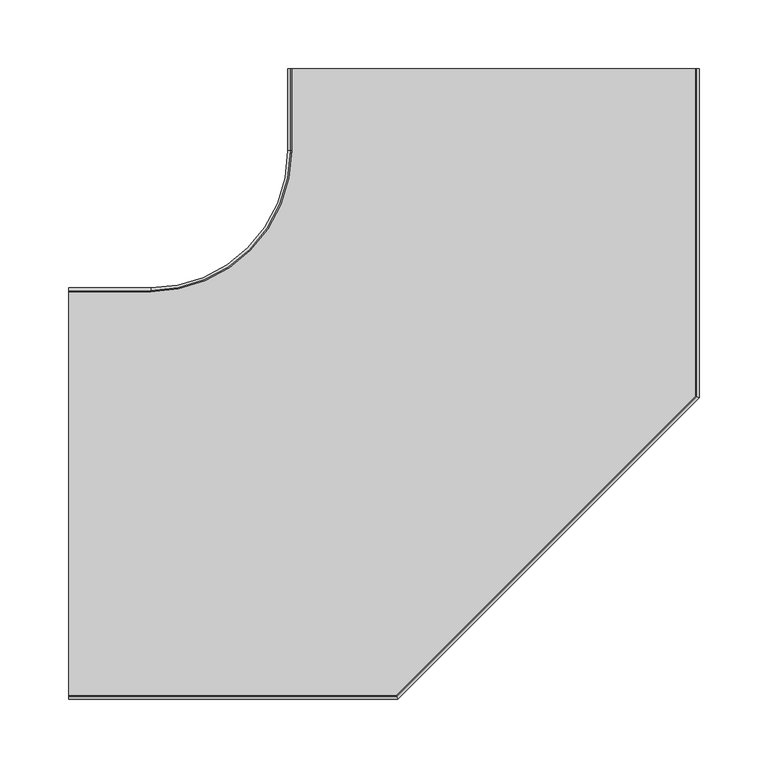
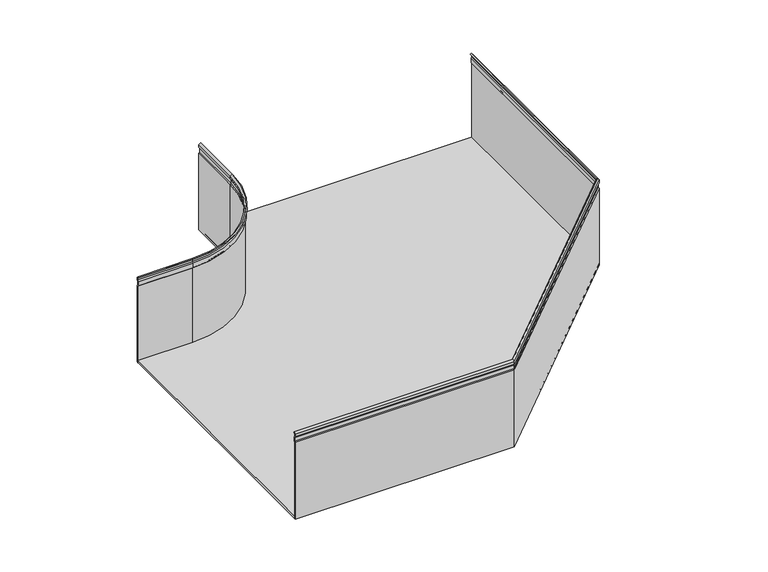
"""IFC4 building model written with IfcOpenShell, lengths in millimetres: cable carrier fitting geometry, CPERC_Horizontal Bend_Basortray : Basortray CPERC-GS."""

from ifc_helpers import new_model, si_unit, point, frame, frame_2d, origin, place, context, project, spatial, polyline, circle_curve, trimmed, segment, composite_curve, outline, extrude, faceted_brep, source, transform, mapped, element, save
from ifc_brep_helpers import plane_surface, cylinder_surface, revolved_surface, advanced_brep


def cable_carrier_fitting_ebb957c4(model_context):
    return source(origin(), model_context, "Body", "SolidModel", [
        advanced_brep(
        [(-310.0, 150.0, 38.8300436), (-310.0, 150.0, -50.0), (-310.0, 149.0, -50.0), (-310.0, 149.0, 38.41583), (-310.0, 148.1224746, 39.2933554), (-310.0, 148.1224746, 44.2339585), (-310.0, 149.0, 45.7538771), (-310.0, 149.0, 47.7843164), (-310.0, 147.4151517, 49.2926771), (-310.0, 148.1224746, 50.0), (-310.0, 150.0, 48.2130874), (-310.0, 150.0, 45.4859279), (-310.0, 149.1224746, 43.9660094), (-310.0, 149.1224746, 39.707569), (-250.0, 149.1224746, 39.707569), (-250.0, 150.0, 38.8300436), (-250.0, 149.1224746, 43.9660094), (-250.0, 150.0, 45.4859279), (-250.0, 150.0, 48.2130874), (-250.0, 148.1224746, 50.0), (-250.0, 147.4151517, 49.2926771), (-250.0, 149.0, 47.7843164), (-250.0, 149.0, 45.7538771), (-250.0, 148.1224746, 44.2339585), (-250.0, 148.1224746, 39.2933554), (-250.0, 149.0, 38.41583), (-250.0, 149.0, -50.0), (-250.0, 150.0, -50.0), (-150.0, 250.0, -50.0), (-150.0, 310.0, -50.0), (-149.0, 310.0, -50.0), (-149.0, 250.0, -50.0), (-150.0, 310.0, 38.8300436), (-149.1224746, 310.0, 39.707569), (-149.1224746, 310.0, 43.9660094), (-150.0, 310.0, 45.4859279), (-150.0, 310.0, 48.2130874), (-148.1224746, 310.0, 50.0), (-147.4151517, 310.0, 49.2926771), (-149.0, 310.0, 47.7843164), (-149.0, 310.0, 45.7538771), (-148.1224746, 310.0, 44.2339585), (-148.1224746, 310.0, 39.2933554), (-149.0, 310.0, 38.41583), (-150.0, 250.0, 38.8300436), (-149.0, 250.0, 38.41583), (-148.1224746, 250.0, 39.2933554), (-148.1224746, 250.0, 44.2339585), (-149.0, 250.0, 45.7538771), (-149.0, 250.0, 47.7843164), (-147.4151517, 250.0, 49.2926771), (-148.1224746, 250.0, 50.0), (-150.0, 250.0, 48.2130874), (-150.0, 250.0, 45.4859279), (-149.1224746, 250.0, 43.9660094), (-149.1224746, 250.0, 39.707569)],
        [
            (0, 1),
            (1, 2),
            (2, 3),
            (3, 4),
            (4, 5),
            (5, 6),
            (6, 7),
            (7, 8),
            (8, 9),
            (9, 10),
            (10, 11),
            (11, 12),
            (12, 13),
            (13, 0),
            (13, 14),
            (14, 15),
            (15, 0),
            (12, 16),
            (16, 14),
            (11, 17),
            (17, 16),
            (10, 18),
            (18, 17),
            (9, 19),
            (19, 18),
            (8, 20),
            (20, 19),
            (7, 21),
            (21, 20),
            (6, 22),
            (22, 21),
            (5, 23),
            (23, 22),
            (4, 24),
            (24, 23),
            (3, 25),
            (25, 24),
            (2, 26),
            (26, 25),
            (1, 27),
            (27, 28, circle_curve(frame((-250.0, 250.0, -50.0), z_axis=(0.0, 0.0, 1.0), x_axis=(0.0, -1.0, 0.0)), 100.0)),
            (28, 29),
            (29, 30),
            (30, 31),
            (31, 26, circle_curve(frame((-250.0, 250.0, -50.0), z_axis=(0.0, 0.0, -1.0), x_axis=(0.0, -1.0, 0.0)), 101.0)),
            (15, 27),
            (32, 33),
            (33, 34),
            (34, 35),
            (35, 36),
            (36, 37),
            (37, 38),
            (38, 39),
            (39, 40),
            (40, 41),
            (41, 42),
            (42, 43),
            (43, 30),
            (29, 32),
            (15, 44, circle_curve(frame((-250.0, 250.0, 38.8300436), z_axis=(0.0, 0.0, 1.0), x_axis=(0.0, -1.0, 0.0)), 100.0)),
            (44, 28),
            (45, 25, circle_curve(frame((-250.0, 250.0, 38.41583), z_axis=(0.0, 0.0, -1.0), x_axis=(0.0, -1.0, 0.0)), 101.0)),
            (31, 45),
            (46, 24, circle_curve(frame((-250.0, 250.0, 39.2933554), z_axis=(0.0, 0.0, -1.0), x_axis=(0.0, -1.0, 0.0)), 101.8775254)),
            (45, 46),
            (47, 23, circle_curve(frame((-250.0, 250.0, 44.2339585), z_axis=(0.0, 0.0, -1.0), x_axis=(0.0, -1.0, 0.0)), 101.8775254)),
            (46, 47),
            (48, 22, circle_curve(frame((-250.0, 250.0, 45.7538771), z_axis=(0.0, 0.0, -1.0), x_axis=(0.0, -1.0, 0.0)), 101.0)),
            (47, 48),
            (49, 21, circle_curve(frame((-250.0, 250.0, 47.7843164), z_axis=(0.0, 0.0, -1.0), x_axis=(0.0, -1.0, 0.0)), 101.0)),
            (48, 49),
            (50, 20, circle_curve(frame((-250.0, 250.0, 49.2926771), z_axis=(0.0, 0.0, -1.0), x_axis=(0.0, -1.0, 0.0)), 102.5848483)),
            (49, 50),
            (51, 19, circle_curve(frame((-250.0, 250.0, 50.0), z_axis=(0.0, 0.0, -1.0), x_axis=(0.0, -1.0, 0.0)), 101.8775254)),
            (50, 51),
            (52, 18, circle_curve(frame((-250.0, 250.0, 48.2130874), z_axis=(0.0, 0.0, -1.0), x_axis=(0.0, -1.0, 0.0)), 100.0)),
            (51, 52),
            (53, 17, circle_curve(frame((-250.0, 250.0, 45.4859279), z_axis=(0.0, 0.0, -1.0), x_axis=(0.0, -1.0, 0.0)), 100.0)),
            (52, 53),
            (54, 16, circle_curve(frame((-250.0, 250.0, 43.9660094), z_axis=(0.0, 0.0, -1.0), x_axis=(0.0, -1.0, 0.0)), 100.8775254)),
            (53, 54),
            (55, 14, circle_curve(frame((-250.0, 250.0, 39.707569), z_axis=(0.0, 0.0, -1.0), x_axis=(0.0, -1.0, 0.0)), 100.8775254)),
            (54, 55),
            (55, 44),
            (44, 32),
            (43, 45),
            (42, 46),
            (41, 47),
            (40, 48),
            (39, 49),
            (38, 50),
            (37, 51),
            (36, 52),
            (35, 53),
            (34, 54),
            (33, 55),
        ],
        [
            plane_surface(frame((-310.0, 150.0, 0.0), z_axis=(-1.0, 0.0, 0.0), x_axis=(0.0, 0.0, 1.0))),
            plane_surface(frame((-310.0, 149.1224746, 39.707569), z_axis=(0.0, 0.707106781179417, 0.7071067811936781), x_axis=(1.0, 0.0, 0.0))),
            plane_surface(frame((-310.0, 149.1224746, 43.9660094), z_axis=(0.0, 1.0, 0.0), x_axis=(1.0, 0.0, 0.0))),
            plane_surface(frame((-310.0, 150.0, 45.4859279), z_axis=(0.0, 0.8660254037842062, -0.5000000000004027), x_axis=(1.0, 0.0, 0.0))),
            plane_surface(frame((-310.0, 150.0, 48.2130874), z_axis=(0.0, 1.0, 0.0), x_axis=(1.0, 0.0, 0.0))),
            plane_surface(frame((-310.0, 148.1224746, 50.0), z_axis=(0.0, 0.6894109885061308, 0.7243704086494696), x_axis=(1.0, 0.0, 0.0))),
            plane_surface(frame((-310.0, 147.4151517, 49.2926771), z_axis=(0.0, -0.707106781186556, 0.7071067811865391), x_axis=(1.0, 0.0, 0.0))),
            plane_surface(frame((-310.0, 149.0, 47.7843164), z_axis=(0.0, -0.6894109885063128, -0.7243704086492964), x_axis=(1.0, 0.0, 0.0))),
            plane_surface(frame((-310.0, 149.0, 45.7538771), z_axis=(0.0, -1.0, 0.0), x_axis=(1.0, 0.0, 0.0))),
            plane_surface(frame((-310.0, 148.1224746, 44.2339585), z_axis=(0.0, -0.8660254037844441, 0.4999999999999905), x_axis=(1.0, 0.0, 0.0))),
            plane_surface(frame((-310.0, 148.1224746, 39.2933554), z_axis=(0.0, -1.0, 0.0), x_axis=(1.0, 0.0, 0.0))),
            plane_surface(frame((-310.0, 149.0, 38.41583), z_axis=(0.0, -0.7071067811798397, -0.7071067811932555), x_axis=(1.0, 0.0, 0.0))),
            plane_surface(frame((-310.0, 149.0, -50.0), z_axis=(0.0, -1.0, 0.0), x_axis=(1.0, 0.0, 0.0))),
            plane_surface(frame((-310.0, 150.0, -50.0), z_axis=(0.0, 0.0, -1.0), x_axis=(1.0, 0.0, 0.0))),
            plane_surface(frame((-310.0, 150.0, 38.8300436), z_axis=(0.0, 1.0, 0.0), x_axis=(1.0, 0.0, 0.0))),
            plane_surface(frame((-150.0, 310.0, 0.0), z_axis=(0.0, 1.0, 0.0), x_axis=(0.0, 0.0, 1.0))),
            revolved_surface(polyline([(-250.0, 150.0, 38.8300436), (-250.0, 150.0, -50.0)]), (-250.0, 250.0, 0.0), (0.0, 0.0, 1.0)),
            cylinder_surface(frame((-250.0, 250.0, 0.0), z_axis=(0.0, 0.0, 1.0), x_axis=(0.0, -1.0, 0.0)), 101.0),
            revolved_surface(polyline([(-250.0, 149.0, 38.41583), (-250.0, 148.1224746, 39.2933554)]), (-250.0, 250.0, 0.0), (0.0, 0.0, 1.0)),
            cylinder_surface(frame((-250.0, 250.0, 0.0), z_axis=(0.0, 0.0, 1.0), x_axis=(0.0, -1.0, 0.0)), 101.8775254),
            revolved_surface(polyline([(-250.0, 148.1224746, 44.2339585), (-250.0, 149.0, 45.7538771)]), (-250.0, 250.0, 0.0), (0.0, 0.0, 1.0)),
            revolved_surface(polyline([(-250.0, 149.0, 47.7843164), (-250.0, 147.4151517, 49.2926771)]), (-250.0, 250.0, 0.0), (0.0, 0.0, 1.0)),
            revolved_surface(polyline([(-250.0, 147.4151517, 49.2926771), (-250.0, 148.1224746, 50.0)]), (-250.0, 250.0, 0.0), (0.0, 0.0, 1.0)),
            revolved_surface(polyline([(-250.0, 148.1224746, 50.0), (-250.0, 150.0, 48.2130874)]), (-250.0, 250.0, 0.0), (0.0, 0.0, 1.0)),
            revolved_surface(polyline([(-250.0, 150.0, 48.2130874), (-250.0, 150.0, 45.4859279)]), (-250.0, 250.0, 0.0), (0.0, 0.0, 1.0)),
            revolved_surface(polyline([(-250.0, 150.0, 45.4859279), (-250.0, 149.1224746, 43.9660094)]), (-250.0, 250.0, 0.0), (0.0, 0.0, 1.0)),
            revolved_surface(polyline([(-250.0, 149.1224746, 43.9660094), (-250.0, 149.1224746, 39.707569)]), (-250.0, 250.0, 0.0), (0.0, 0.0, 1.0)),
            revolved_surface(polyline([(-250.0, 149.1224746, 39.707569), (-250.0, 150.0, 38.8300436)]), (-250.0, 250.0, 0.0), (0.0, 0.0, 1.0)),
            plane_surface(frame((-150.0, 250.0, 38.8300436), z_axis=(-1.0, 0.0, 0.0), x_axis=(0.0, 1.0, 0.0))),
            plane_surface(frame((-149.0, 250.0, -50.0), z_axis=(1.0, 0.0, 0.0), x_axis=(0.0, 1.0, 0.0))),
            plane_surface(frame((-149.0, 250.0, 38.41583), z_axis=(0.7071067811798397, 0.0, -0.7071067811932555), x_axis=(0.0, 1.0, 0.0))),
            plane_surface(frame((-148.1224746, 250.0, 39.2933554), z_axis=(1.0, 0.0, 0.0), x_axis=(0.0, 1.0, 0.0))),
            plane_surface(frame((-148.1224746, 250.0, 44.2339585), z_axis=(0.8660254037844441, 0.0, 0.4999999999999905), x_axis=(0.0, 1.0, 0.0))),
            plane_surface(frame((-149.0, 250.0, 45.7538771), z_axis=(1.0, 0.0, 0.0), x_axis=(0.0, 1.0, 0.0))),
            plane_surface(frame((-149.0, 250.0, 47.7843164), z_axis=(0.6894109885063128, 0.0, -0.7243704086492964), x_axis=(0.0, 1.0, 0.0))),
            plane_surface(frame((-147.4151517, 250.0, 49.2926771), z_axis=(0.707106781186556, 0.0, 0.7071067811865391), x_axis=(0.0, 1.0, 0.0))),
            plane_surface(frame((-148.1224746, 250.0, 50.0), z_axis=(-0.6894109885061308, 0.0, 0.7243704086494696), x_axis=(0.0, 1.0, 0.0))),
            plane_surface(frame((-150.0, 250.0, 48.2130874), z_axis=(-1.0, 0.0, 0.0), x_axis=(0.0, 1.0, 0.0))),
            plane_surface(frame((-150.0, 250.0, 45.4859279), z_axis=(-0.8660254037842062, 0.0, -0.5000000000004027), x_axis=(0.0, 1.0, 0.0))),
            plane_surface(frame((-149.1224746, 250.0, 43.9660094), z_axis=(-1.0, 0.0, 0.0), x_axis=(0.0, 1.0, 0.0))),
            plane_surface(frame((-149.1224746, 250.0, 39.707569), z_axis=(-0.707106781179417, 0.0, 0.7071067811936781), x_axis=(0.0, 1.0, 0.0))),
        ],
        [
            (0, [[1, 2, 3, 4, 5, 6, 7, 8, 9, 10, 11, 12, 13, 14]]),
            (1, [[-14, 15, 16, 17]]),
            (2, [[-13, 18, 19, -15]]),
            (3, [[-12, 20, 21, -18]]),
            (4, [[-11, 22, 23, -20]]),
            (5, [[-10, 24, 25, -22]]),
            (6, [[-9, 26, 27, -24]]),
            (7, [[-8, 28, 29, -26]]),
            (8, [[-7, 30, 31, -28]]),
            (9, [[-6, 32, 33, -30]]),
            (10, [[-5, 34, 35, -32]]),
            (11, [[-4, 36, 37, -34]]),
            (12, [[-3, 38, 39, -36]]),
            (13, [[-2, 40, 41, 42, 43, 44, 45, -38]]),
            (14, [[-1, -17, 46, -40]]),
            (15, [[47, 48, 49, 50, 51, 52, 53, 54, 55, 56, 57, 58, -43, 59]]),
            (16, [[-41, -46, 60, 61]]),
            (17, [[62, -39, -45, 63]]),
            (18, [[64, -37, -62, 65]]),
            (19, [[66, -35, -64, 67]]),
            (20, [[68, -33, -66, 69]]),
            (17, [[70, -31, -68, 71]]),
            (21, [[72, -29, -70, 73]]),
            (22, [[74, -27, -72, 75]]),
            (23, [[76, -25, -74, 77]]),
            (24, [[78, -23, -76, 79]]),
            (25, [[80, -21, -78, 81]]),
            (26, [[82, -19, -80, 83]]),
            (27, [[-60, -16, -82, 84]]),
            (28, [[-61, 85, -59, -42]]),
            (29, [[-63, -44, -58, 86]]),
            (30, [[-65, -86, -57, 87]]),
            (31, [[-67, -87, -56, 88]]),
            (32, [[-69, -88, -55, 89]]),
            (33, [[-71, -89, -54, 90]]),
            (34, [[-73, -90, -53, 91]]),
            (35, [[-75, -91, -52, 92]]),
            (36, [[-77, -92, -51, 93]]),
            (37, [[-79, -93, -50, 94]]),
            (38, [[-81, -94, -49, 95]]),
            (39, [[-83, -95, -48, 96]]),
            (40, [[-84, -96, -47, -85]]),
        ],
    ),
        faceted_brep([(-310.0, -150.0, 38.8300436), (-310.0, -149.1224746, 39.707569), (-310.0, -149.1224746, 43.9660094), (-310.0, -150.0, 45.4859279), (-310.0, -150.0, 48.2130874), (-310.0, -148.1224746, 50.0), (-310.0, -147.4151517, 49.2926771), (-310.0, -149.0, 47.7843164), (-310.0, -149.0, 45.7538771), (-310.0, -148.1224746, 44.2339585), (-310.0, -148.1224746, 39.2933554), (-310.0, -149.0, 38.41583), (-310.0, -149.0, -50.0), (-310.0, -150.0, -50.0), (-70.0, -150.0, 38.8300436), (-70.3634829, -149.1224746, 39.707569), (-70.3634829, -149.1224746, 43.9660094), (-70.0, -150.0, 45.4859279), (-70.0, -150.0, 48.2130874), (-70.7776965, -148.1224746, 50.0), (-71.0706792, -147.4151517, 49.2926771), (-70.4142136, -149.0, 47.7843164), (-70.4142136, -149.0, 45.7538771), (-70.7776965, -148.1224746, 44.2339585), (-70.7776965, -148.1224746, 39.2933554), (-70.4142136, -149.0, 38.41583), (-70.4142136, -149.0, -50.0), (149.0, 70.4142136, -50.0), (149.0, 310.0, -50.0), (150.0, 310.0, -50.0), (150.0, 70.0, -50.0), (-70.0, -150.0, -50.0), (150.0, 70.0, 38.8300436), (149.1224746, 70.3634829, 39.707569), (149.1224746, 70.3634829, 43.9660094), (150.0, 70.0, 45.4859279), (150.0, 70.0, 48.2130874), (148.1224746, 70.7776965, 50.0), (147.4151517, 71.0706792, 49.2926771), (149.0, 70.4142136, 47.7843164), (149.0, 70.4142136, 45.7538771), (148.1224746, 70.7776965, 44.2339585), (148.1224746, 70.7776965, 39.2933554), (149.0, 70.4142136, 38.41583), (150.0, 310.0, 38.8300436), (149.0, 310.0, 38.41583), (148.1224746, 310.0, 39.2933554), (148.1224746, 310.0, 44.2339585), (149.0, 310.0, 45.7538771), (149.0, 310.0, 47.7843164), (147.4151517, 310.0, 49.2926771), (148.1224746, 310.0, 50.0), (150.0, 310.0, 48.2130874), (150.0, 310.0, 45.4859279), (149.1224746, 310.0, 43.9660094), (149.1224746, 310.0, 39.707569)], [[[0, 1, 2, 3, 4, 5, 6, 7, 8, 9, 10, 11, 12, 13]], [[1, 0, 14, 15]], [[2, 1, 15, 16]], [[3, 2, 16, 17]], [[4, 3, 17, 18]], [[5, 4, 18, 19]], [[6, 5, 19, 20]], [[7, 6, 20, 21]], [[8, 7, 21, 22]], [[9, 8, 22, 23]], [[10, 9, 23, 24]], [[11, 10, 24, 25]], [[12, 11, 25, 26]], [[13, 12, 26, 27, 28, 29, 30, 31]], [[0, 13, 31, 14]], [[15, 14, 32, 33]], [[16, 15, 33, 34]], [[17, 16, 34, 35]], [[18, 17, 35, 36]], [[19, 18, 36, 37]], [[20, 19, 37, 38]], [[21, 20, 38, 39]], [[22, 21, 39, 40]], [[23, 22, 40, 41]], [[24, 23, 41, 42]], [[25, 24, 42, 43]], [[26, 25, 43, 27]], [[14, 31, 30, 32]], [[44, 29, 28, 45, 46, 47, 48, 49, 50, 51, 52, 53, 54, 55]], [[33, 32, 44, 55]], [[34, 33, 55, 54]], [[35, 34, 54, 53]], [[36, 35, 53, 52]], [[37, 36, 52, 51]], [[38, 37, 51, 50]], [[39, 38, 50, 49]], [[40, 39, 49, 48]], [[41, 40, 48, 47]], [[42, 41, 47, 46]], [[43, 42, 46, 45]], [[27, 43, 45, 28]], [[32, 30, 29, 44]]]),
        extrude(outline(composite_curve([segment(polyline([(150.0, 70.0), (-70.0, -150.0), (-310.0, -150.0), (-310.0, 150.0), (-250.0, 150.0)]), True, "CONTINUOUS"), segment(trimmed(circle_curve(frame_2d((-250.0, 250.0)), 100.0), [point((-250.0, 150.0))], [point((-150.0, 250.0))], True, "CARTESIAN"), True, "CONTINUOUS"), segment(polyline([(-150.0, 250.0), (-150.0, 310.0), (150.0, 310.0), (150.0, 70.0)]), True, "CONTINUOUS")], self_intersect=False)), frame((0.0, 0.0, -50.0), z_axis=(0.0, 0.0, 1.0), x_axis=(1.0, 0.0, 0.0)), (0.0, 0.0, 1.0), 2.54),
    ])


if __name__ == "__main__":
    model = new_model("IFC4")
    model_context = context("Model", 3, world=origin())
    ifc_project = project(units=[si_unit("LENGTHUNIT", "METRE", prefix="MILLI")], contexts=[model_context])
    site = spatial("IfcSite", under=ifc_project)
    building = spatial("IfcBuilding", under=site)
    placement = place(None, origin())
    cable_carrier_fitting_shape = cable_carrier_fitting_ebb957c4(model_context)
    element("IfcCableCarrierFitting", 1, ObjectType="CPERC_Horizontal Bend_Basortray : Basortray CPERC-GS", at=placement, inside=building, context=model_context, shape_type="MappedRepresentation", body=[
        mapped(cable_carrier_fitting_shape, transform((0.0, 0.0, 0.0), x_axis=(1.0, 0.0, 0.0), y_axis=(0.0, 1.0, 0.0), z_axis=(0.0, 0.0, 1.0))),
    ])
    save(model, "model.ifc")
